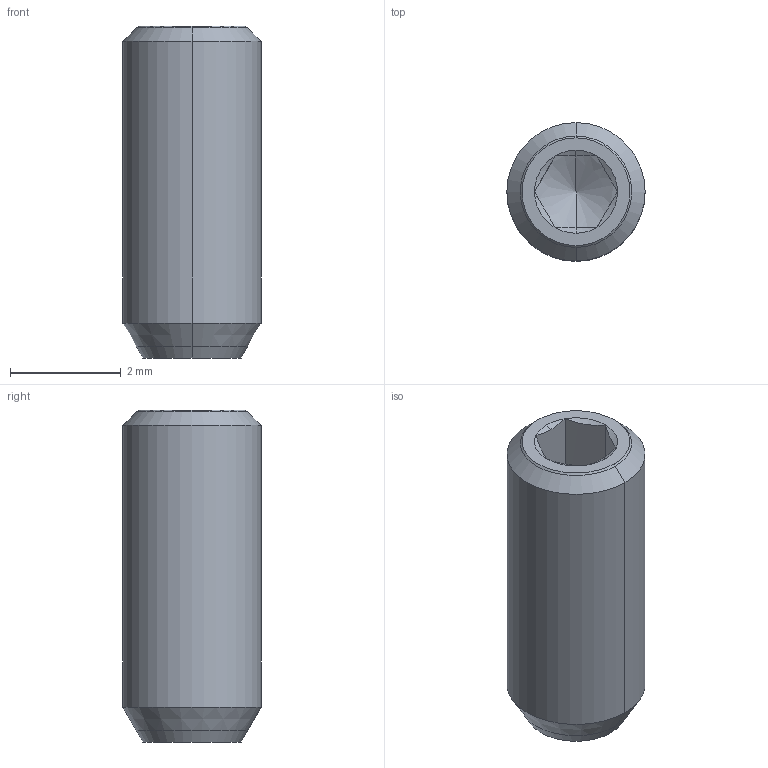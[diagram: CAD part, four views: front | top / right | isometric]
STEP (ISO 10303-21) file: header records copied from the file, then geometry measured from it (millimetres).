
FILE_DESCRIPTION(/* description */ ('VariCAD 2008 3.04 AP-203'),/* implementation_level */ '2;1');
FILE_NAME(/* name */ '0353-98-10',/* time_stamp */ '2009-04-28T12:18:32-06:00',/* author */ (''),/* organization */ (''),/* preprocessor_version */ 'ST-DEVELOPER v12',/* originating_system */ 'VariCAD 2008 3.04; kernel version (20080715)',/* authorisation */ '');
FILE_SCHEMA (('CONFIG_CONTROL_DESIGN'));
Length unit declared in the file: millimetre
Products named in the file (1): Part
Bounding box: 2.5 x 2.5 x 6 mm (x, y, z)
Volume: 25.1 mm3; surface area: 135.3 mm2
Topology: 2 solids, 2 shells, 32 faces, 66 edges, 35 vertices
Faces by surface type: cone 18, plane 8, cylinder 6
Entity records: 910 total; most frequent: CARTESIAN_POINT 214, DIRECTION 142, ORIENTED_EDGE 128, EDGE_CURVE 64, AXIS2_PLACEMENT_3D 59, VERTEX_POINT 35, EDGE_LOOP 33, ADVANCED_FACE 32
